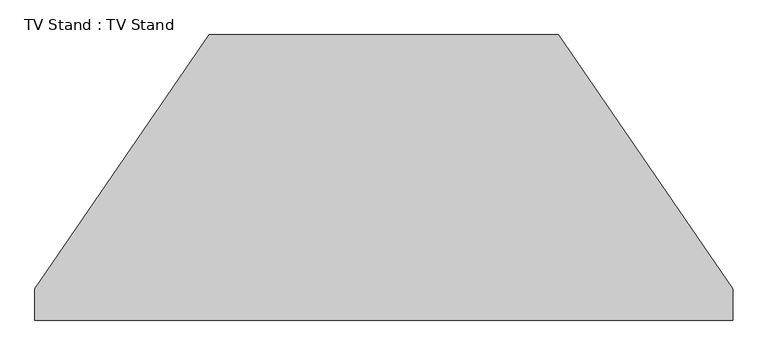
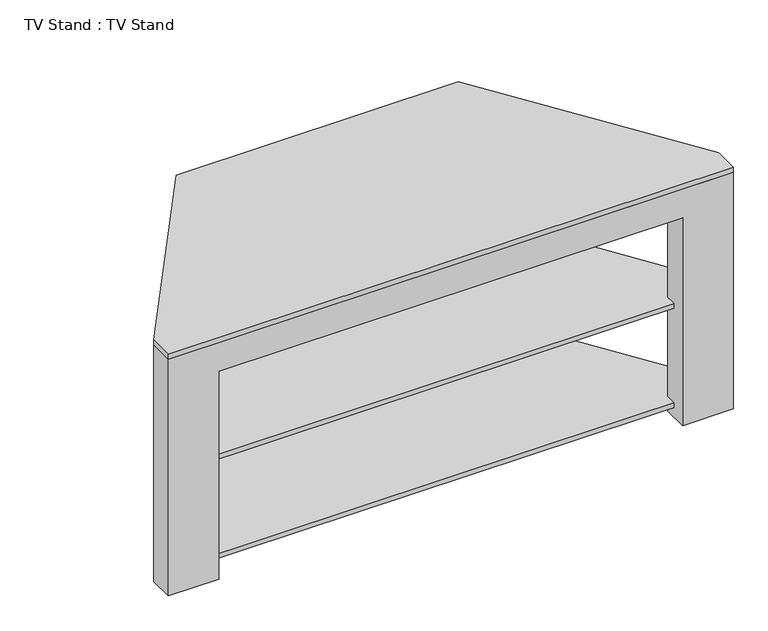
"""IFC4 building model written with IfcOpenShell, lengths in millimetres: furniture geometry, TV Stand : TV Stand."""

from ifc_helpers import new_model, si_unit, point, frame, frame_2d, origin, place, context, project, spatial, polyline, circle_curve, trimmed, segment, composite_curve, outline, extrude, faceted_brep, source, transform, mapped, element, save


def tv_stand_tv_stand_6ce107e5(model_context):
    return source(origin(), model_context, "Body", "SolidModel", [
        extrude(outline(polyline([(425.1724814, -30.0), (633.9880021, -334.3295634), (633.9880021, -427.2), (-383.6119979, -427.2), (-383.6119979, -334.3295634), (-174.7964773, -30.0), (425.1724814, -30.0)])), frame((0.0, 0.0, 20.0), z_axis=(0.0, 0.0, 1.0), x_axis=(1.0, 0.0, 0.0)), (0.0, 0.0, 1.0), 10.0),
        extrude(outline(polyline([(425.1724814, -30.0), (633.9880021, -334.3295634), (633.9880021, -427.2), (-383.6119979, -427.2), (-383.6119979, -334.3295634), (-174.7964773, -30.0), (425.1724814, -30.0)])), frame((0.0, 0.0, 227.65), z_axis=(0.0, 0.0, 1.0), x_axis=(1.0, 0.0, 0.0)), (0.0, 0.0, 1.0), 10.0),
        extrude(outline(polyline([(404.5880021, 0.0), (683.9880021, -407.2), (683.9880021, -457.2), (-433.6119979, -457.2), (-433.6119979, -407.2), (-154.2119979, 0.0), (404.5880021, 0.0)])), frame((0.0, 0.0, 495.3), z_axis=(0.0, 0.0, 1.0), x_axis=(1.0, 0.0, 0.0)), (0.0, 0.0, 1.0), 10.0),
        extrude(outline(polyline([(-50.0, 495.3), (0.0, 495.3), (0.0, 0.0), (-50.0, 0.0), (-50.0, 20.0), (-30.0, 20.0), (-30.0, 30.0), (-50.0, 30.0), (-50.0, 227.65), (-30.0, 227.65), (-30.0, 237.65), (-50.0, 237.65), (-50.0, 495.3)])), frame((-154.2119979, 0.0, 0.0), z_axis=(1.0, 0.0, 0.0), x_axis=(0.0, 1.0, 0.0)), (0.0, 0.0, 1.0), 100.0),
        extrude(outline(polyline([(-50.0, 495.3), (0.0, 495.3), (0.0, 0.0), (-50.0, 0.0), (-50.0, 20.0), (-30.0, 20.0), (-30.0, 30.0), (-50.0, 30.0), (-50.0, 227.65), (-30.0, 227.65), (-30.0, 237.65), (-50.0, 237.65), (-50.0, 495.3)])), frame((304.5880021, 0.0, 0.0), z_axis=(1.0, 0.0, 0.0), x_axis=(0.0, 1.0, 0.0)), (0.0, 0.0, 1.0), 100.0),
        faceted_brep([(-433.6119979, -457.2, 0.0), (-333.6119979, -457.2, 0.0), (-333.6119979, -457.2, 435.3), (583.9880021, -457.2, 435.3), (583.9880021, -457.2, 0.0), (683.9880021, -457.2, 0.0), (683.9880021, -457.2, 495.3), (-433.6119979, -457.2, 495.3), (-433.6119979, -407.2, 0.0), (-433.6119979, -407.2, 495.3), (683.9880021, -407.2, 495.3), (683.9880021, -407.2, 0.0), (583.9880021, -407.2, 0.0), (583.9880021, -407.2, 20.0), (633.9880021, -407.2, 20.0), (633.9880021, -407.2, 30.0), (583.9880021, -407.2, 30.0), (583.9880021, -407.2, 227.65), (633.9880021, -407.2, 227.65), (633.9880021, -407.2, 237.65), (583.9880021, -407.2, 237.65), (583.9880021, -407.2, 435.3), (-333.6119979, -407.2, 435.3), (-333.6119979, -407.2, 237.65), (-383.6119979, -407.2, 237.65), (-383.6119979, -407.2, 227.65), (-333.6119979, -407.2, 227.65), (-333.6119979, -407.2, 30.0), (-383.6119979, -407.2, 30.0), (-383.6119979, -407.2, 20.0), (-333.6119979, -407.2, 20.0), (-333.6119979, -407.2, 0.0), (-333.6119979, -427.2, 20.0), (-333.6119979, -427.2, 30.0), (-333.6119979, -427.2, 227.65), (-333.6119979, -427.2, 237.65), (583.9880021, -427.2, 237.65), (583.9880021, -427.2, 227.65), (583.9880021, -427.2, 30.0), (583.9880021, -427.2, 20.0), (633.9880021, -427.2, 237.65), (-383.6119979, -427.2, 237.65), (-383.6119979, -427.2, 227.65), (633.9880021, -427.2, 227.65), (633.9880021, -427.2, 30.0), (-383.6119979, -427.2, 30.0), (-383.6119979, -427.2, 20.0), (633.9880021, -427.2, 20.0)], [[[0, 1, 2, 3, 4, 5, 6, 7]], [[8, 9, 10, 11, 12, 13, 14, 15, 16, 17, 18, 19, 20, 21, 22, 23, 24, 25, 26, 27, 28, 29, 30, 31]], [[1, 0, 8, 31]], [[2, 1, 31, 30, 32, 33, 27, 26, 34, 35, 23, 22]], [[3, 2, 22, 21]], [[4, 3, 21, 20, 36, 37, 17, 16, 38, 39, 13, 12]], [[5, 4, 12, 11]], [[6, 5, 11, 10]], [[7, 6, 10, 9]], [[0, 7, 9, 8]], [[19, 40, 36, 20]], [[35, 41, 24, 23]], [[25, 42, 34, 26]], [[37, 43, 18, 17]], [[41, 42, 25, 24]], [[42, 41, 35, 34]], [[40, 43, 37, 36]], [[43, 40, 19, 18]], [[15, 44, 38, 16]], [[33, 45, 28, 27]], [[29, 46, 32, 30]], [[39, 47, 14, 13]], [[45, 46, 29, 28]], [[46, 45, 33, 32]], [[44, 47, 39, 38]], [[47, 44, 15, 14]]]),
        extrude(outline(polyline([(0.0, 304.5880021), (495.3, 304.5880021), (495.3, -54.2119979), (0.0, -54.2119979), (0.0, 304.5880021)]), holes=[composite_curve([segment(polyline([(242.65, 145.1700818), (242.65, 105.2059224)]), True, "CONTINUOUS"), segment(trimmed(circle_curve(frame_2d((255.15, 105.2059224)), 12.5), [point((242.65, 105.2059224))], [point((267.65, 105.2059224))], True, "CARTESIAN"), True, "CONTINUOUS"), segment(polyline([(267.65, 105.2059224), (267.65, 145.1700818)]), True, "CONTINUOUS"), segment(trimmed(circle_curve(frame_2d((255.15, 145.1700818)), 12.5), [point((267.65, 145.1700818))], [point((242.65, 145.1700818))], True, "CARTESIAN"), True, "CONTINUOUS")], self_intersect=False), composite_curve([segment(polyline([(35.0, 145.1880021), (35.0, 105.2059224)]), True, "CONTINUOUS"), segment(trimmed(circle_curve(frame_2d((47.5, 105.2059224)), 12.5), [point((35.0, 105.2059224))], [point((60.0, 105.2059224))], True, "CARTESIAN"), True, "CONTINUOUS"), segment(polyline([(60.0, 105.2059224), (60.0, 145.1880021)]), True, "CONTINUOUS"), segment(trimmed(circle_curve(frame_2d((47.5, 145.1880021)), 12.5), [point((60.0, 145.1880021))], [point((35.0, 145.1880021))], True, "CARTESIAN"), True, "CONTINUOUS")], self_intersect=False)]), frame((0.0, -30.0, 0.0), z_axis=(0.0, 1.0, 0.0), x_axis=(0.0, 0.0, 1.0)), (0.0, 0.0, 1.0), 10.0),
    ])


if __name__ == "__main__":
    model = new_model("IFC4")
    model_context = context("Model", 3, world=origin())
    ifc_project = project(units=[si_unit("LENGTHUNIT", "METRE", prefix="MILLI")], contexts=[model_context])
    site = spatial("IfcSite", under=ifc_project)
    building = spatial("IfcBuilding", under=site)
    placement = place(None, origin())
    tv_stand_tv_stand_shape = tv_stand_tv_stand_6ce107e5(model_context)
    element("IfcFurniture", 1, ObjectType="TV Stand : TV Stand", at=placement, inside=building, context=model_context, shape_type="MappedRepresentation", body=[
        mapped(tv_stand_tv_stand_shape, transform((0.0, 0.0, 0.0), x_axis=(1.0, 0.0, 0.0), y_axis=(0.0, 1.0, 0.0), z_axis=(0.0, 0.0, 1.0))),
    ])
    save(model, "model.ifc")
